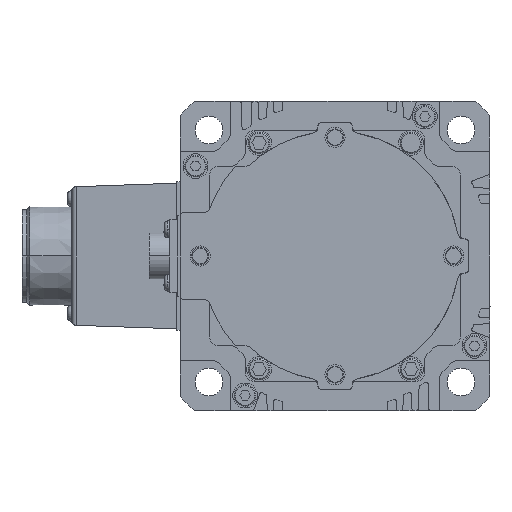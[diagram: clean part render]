
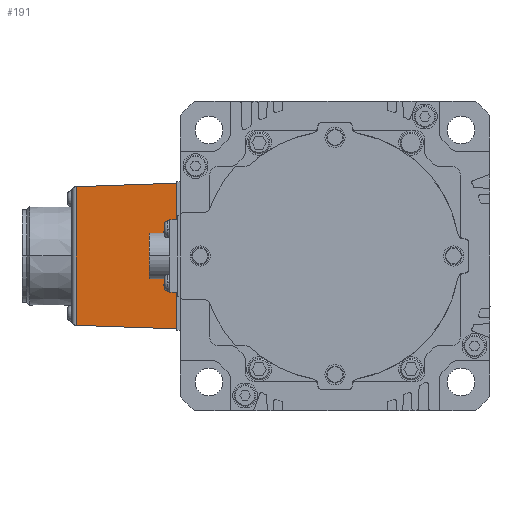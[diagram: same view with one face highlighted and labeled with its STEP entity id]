
A CAD part, left-side view. The second image highlights one B-rep face of the part: STEP entity #191.
In plain terms, the highlighted planar face has unit normal (-0.999, 0.035, 0).
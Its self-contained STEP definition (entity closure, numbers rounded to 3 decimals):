
#191 = ADVANCED_FACE( '', ( #945 ), #946, .T. );
#945 = FACE_OUTER_BOUND( '', #2279, .T. );
#946 = PLANE( '', #2280 );
#2279 = EDGE_LOOP( '', ( #4277, #4278, #4279, #4280 ) );
#2280 = AXIS2_PLACEMENT_3D( '', #4281, #4282, #4283 );
#4277 = ORIENTED_EDGE( '', *, *, #9075, .T. );
#4278 = ORIENTED_EDGE( '', *, *, #9100, .F. );
#4279 = ORIENTED_EDGE( '', *, *, #9084, .T. );
#4280 = ORIENTED_EDGE( '', *, *, #9099, .T. );
#4281 = CARTESIAN_POINT( '', ( -108.863, 83.552, 24. ) );
#4282 = DIRECTION( '', ( -0.999, 0.035, 0. ) );
#4283 = DIRECTION( '', ( 0.035, 0.999, 0. ) );
#9075 = EDGE_CURVE( '', #11119, #11117, #11120, .T. );
#9084 = EDGE_CURVE( '', #11135, #11133, #11136, .T. );
#9099 = EDGE_CURVE( '', #11133, #11119, #11158, .T. );
#9100 = EDGE_CURVE( '', #11135, #11117, #11159, .T. );
#11117 = VERTEX_POINT( '', #14238 );
#11119 = VERTEX_POINT( '', #14241 );
#11120 = LINE( '', #14242, #14243 );
#11133 = VERTEX_POINT( '', #14259 );
#11135 = VERTEX_POINT( '', #14262 );
#11136 = LINE( '', #14263, #14264 );
#11158 = LINE( '', #14298, #14299 );
#11159 = LINE( '', #14300, #14301 );
#14238 = CARTESIAN_POINT( '', ( -110., 51., -23.5 ) );
#14241 = CARTESIAN_POINT( '', ( -108.863, 83.552, -22.363 ) );
#14242 = CARTESIAN_POINT( '', ( -108.799, 85.394, -22.299 ) );
#14243 = VECTOR( '', #18143, 1. );
#14259 = CARTESIAN_POINT( '', ( -108.863, 83.552, 22.363 ) );
#14262 = CARTESIAN_POINT( '', ( -110., 51., 23.5 ) );
#14263 = CARTESIAN_POINT( '', ( -109.396, 68.301, 22.896 ) );
#14264 = VECTOR( '', #18160, 1. );
#14298 = CARTESIAN_POINT( '', ( -108.863, 83.552, 24. ) );
#14299 = VECTOR( '', #18179, 1. );
#14300 = CARTESIAN_POINT( '', ( -110., 51., 24. ) );
#14301 = VECTOR( '', #18180, 1. );
#18143 = DIRECTION( '', ( -0.035, -0.999, -0.035 ) );
#18160 = DIRECTION( '', ( 0.035, 0.999, -0.035 ) );
#18179 = DIRECTION( '', ( 0., 0., -1. ) );
#18180 = DIRECTION( '', ( 0., 0., -1. ) );
